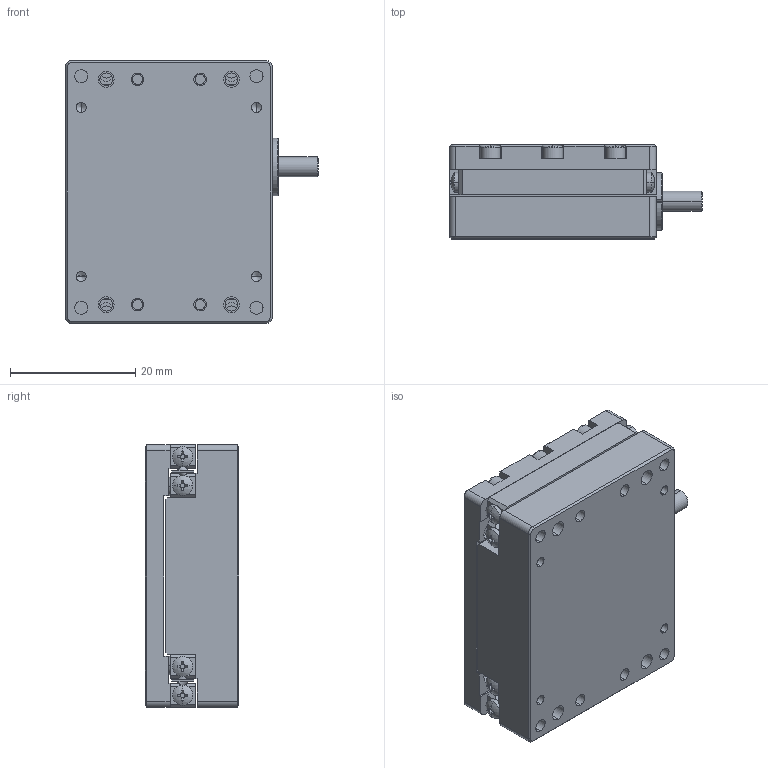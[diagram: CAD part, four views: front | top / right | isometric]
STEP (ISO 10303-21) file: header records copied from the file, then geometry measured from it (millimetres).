
FILE_DESCRIPTION (( 'STEP AP214' ), '1' );
FILE_NAME ('N56.10E-B1闭环直线压电马达(23.03.16）.STEP', '2026-05-27T05:49:11', ( '微软用户' ), ( '微软中国' ), 'SwSTEP 2.0', 'SolidWorks 2016', '' );
FILE_SCHEMA (( 'AUTOMOTIVE_DESIGN' ));
Length unit declared in the file: millimetre
Products named in the file (1): N56.10E-B1闭环直线压电马达(23.03.16）
Bounding box: 40.4 x 15 x 42 mm (x, y, z)
Volume: 14715.8 mm3; surface area: 14096.8 mm2
Topology: 44 solids, 44 shells, 1104 faces, 2745 edges, 1764 vertices
Faces by surface type: plane 550, cylinder 434, cone 83, torus 24, sphere 13
Entity records: 33511 total; most frequent: CARTESIAN_POINT 6260, DIRECTION 5753, ORIENTED_EDGE 5386, EDGE_CURVE 2693, AXIS2_PLACEMENT_3D 2145, VERTEX_POINT 1764, LINE 1463, VECTOR 1463
